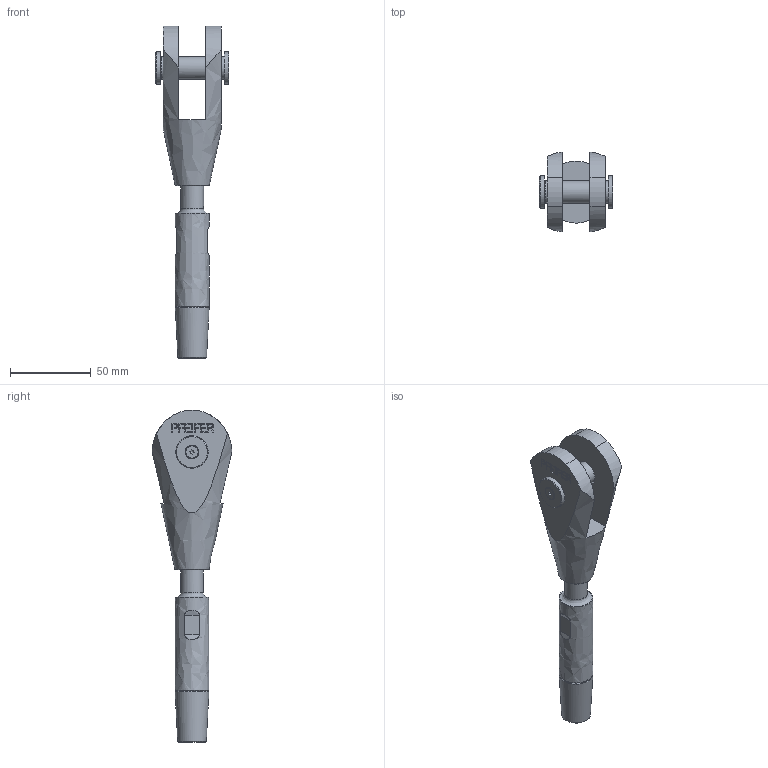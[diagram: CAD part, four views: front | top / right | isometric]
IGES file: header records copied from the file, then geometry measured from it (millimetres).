
Global section: file name: 520-014-GAK-ADA; native system: Autodesk Inventor 2016; preprocessor: unknown; author: Administrator; date: 20200703.130403; units: centimetre
Bounding box: 45.78 x 49.18 x 205.5 mm (x, y, z)
Volume: 101270.4 mm3; surface area: 27647.3 mm2
Topology: 2 solids, 3 shells, 198 faces, 522 edges, 351 vertices
Faces by surface type: bspline 198
